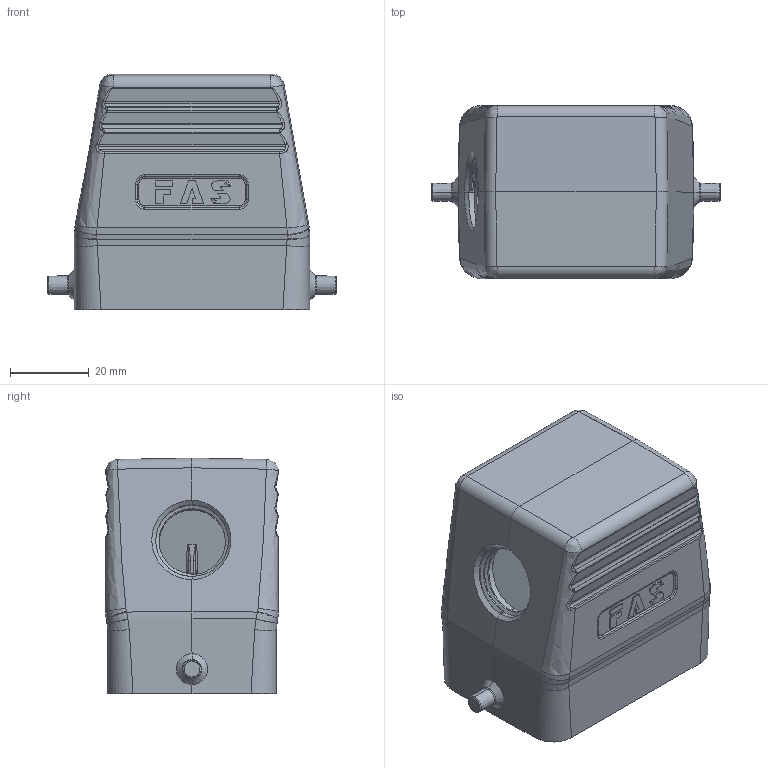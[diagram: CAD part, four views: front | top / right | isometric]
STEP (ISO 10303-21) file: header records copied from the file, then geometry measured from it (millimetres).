
FILE_DESCRIPTION (( 'STEP AP203' ), '1' );
FILE_NAME ('H6B-TS-M20.STEP', '2020-07-02T05:16:50', ( '' ), ( '' ), 'SwSTEP 2.0', 'SolidWorks 2016', '' );
FILE_SCHEMA (( 'CONFIG_CONTROL_DESIGN' ));
Length unit declared in the file: millimetre
Products named in the file (1): H6B-TS-M20
Bounding box: 73.4 x 44 x 60 mm (x, y, z)
Volume: 52469.9 mm3; surface area: 24549.9 mm2
Topology: 1 solids, 1 shells, 512 faces, 1253 edges, 767 vertices
Faces by surface type: plane 168, bspline 161, cylinder 146, cone 37
Entity records: 23989 total; most frequent: CARTESIAN_POINT 13367, ORIENTED_EDGE 2506, DIRECTION 1747, EDGE_CURVE 1253, VERTEX_POINT 767, AXIS2_PLACEMENT_3D 599, VECTOR 549, LINE 549
